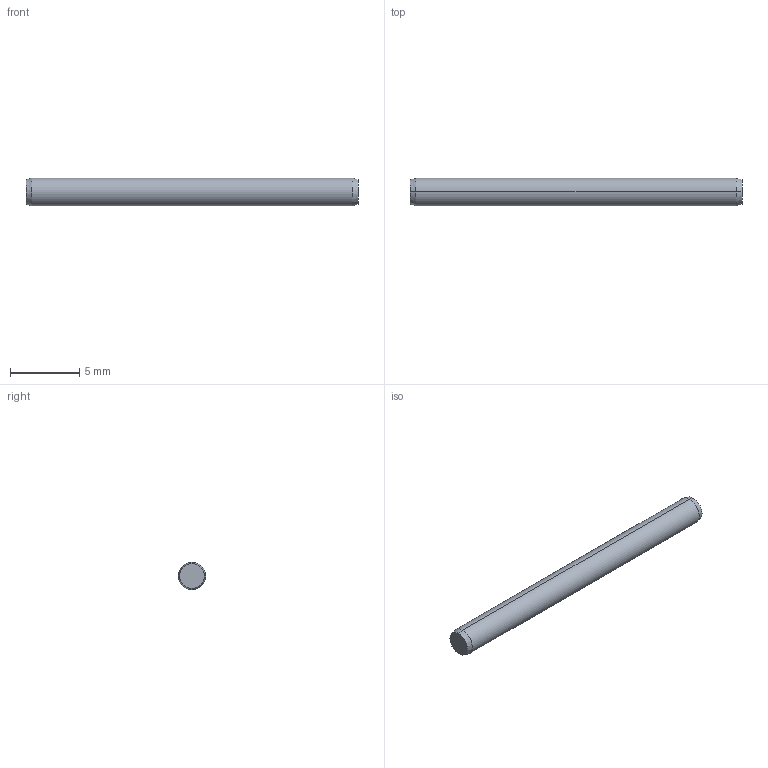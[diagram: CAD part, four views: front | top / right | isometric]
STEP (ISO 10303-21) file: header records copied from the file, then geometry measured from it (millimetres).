
FILE_DESCRIPTION (( 'STEP AP203' ), '1' );
FILE_NAME ('P1206.020-024.step', '2017-06-14T07:58:25', ( 'User' ), ( '' ), 'SwSTEP 2.0', 'SolidWorks 2009', '' );
FILE_SCHEMA (( 'CONFIG_CONTROL_DESIGN' ));
Length unit declared in the file: millimetre
Products named in the file (1): P1206.020-024
Bounding box: 24 x 2 x 2 mm (x, y, z)
Volume: 75.1 mm3; surface area: 155.7 mm2
Topology: 1 solids, 1 shells, 8 faces, 14 edges, 8 vertices
Faces by surface type: cone 4, cylinder 2, plane 2
Entity records: 271 total; most frequent: DIRECTION 40, CARTESIAN_POINT 31, ORIENTED_EDGE 28, AXIS2_PLACEMENT_3D 17, EDGE_CURVE 14, FACE_OUTER_BOUND 8, ADVANCED_FACE 8, EDGE_LOOP 8
